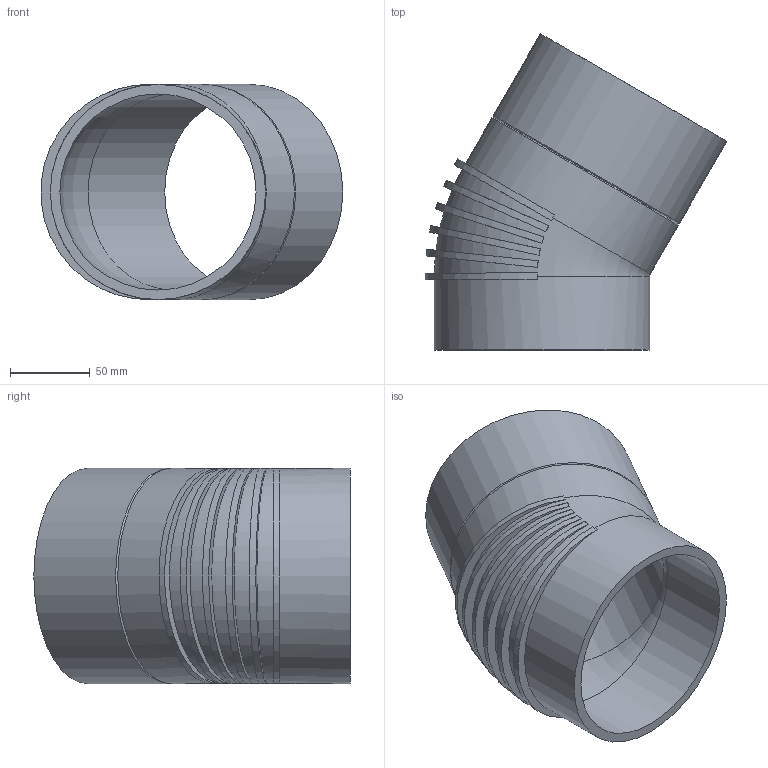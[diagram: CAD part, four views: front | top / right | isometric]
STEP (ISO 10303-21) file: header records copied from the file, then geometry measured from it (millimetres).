
FILE_DESCRIPTION(/* description */ (''),/* implementation_level */ '2;1');
FILE_NAME(/* name */ 'Z:\Geberit\Export\NewStep\Bogen_Ipart\stp\312300.stp',/* time_stamp */ '2014-04-03T16:42:31+02:00',/* author */ ('Marco'),/* organization */ (''),/* preprocessor_version */ 'ST-DEVELOPER v15.2',/* originating_system */ 'Autodesk Inventor 2014',/* authorisation */ '');
FILE_SCHEMA (('AUTOMOTIVE_DESIGN { 1 0 10303 214 3 1 1 }'));
Length unit declared in the file: millimetre
Products named in the file (1): 312300
Bounding box: 189.21 x 198.34 x 135 mm (x, y, z)
Volume: 455560.1 mm3; surface area: 160741.6 mm2
Topology: 1 solids, 1 shells, 29 faces, 78 edges, 51 vertices
Faces by surface type: plane 14, cylinder 11, cone 2, torus 2
Full cylindrical faces by diameter (mm): 123 x2, 135 x3
Entity records: 1502 total; most frequent: CARTESIAN_POINT 838, ORIENTED_EDGE 122, DIRECTION 114, EDGE_CURVE 61, AXIS2_PLACEMENT_3D 55, VERTEX_POINT 47, EDGE_LOOP 44, B_SPLINE_CURVE_WITH_KNOTS 32
